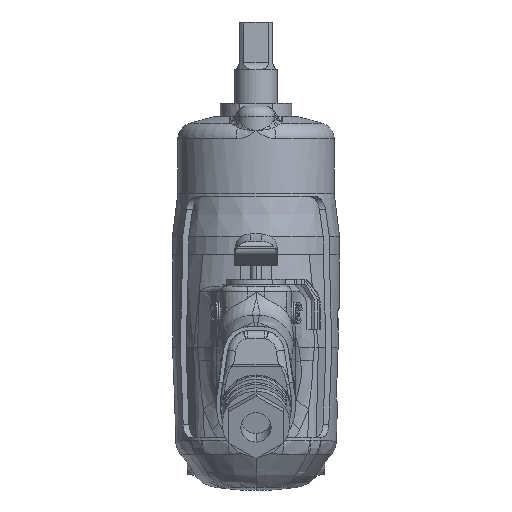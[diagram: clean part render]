
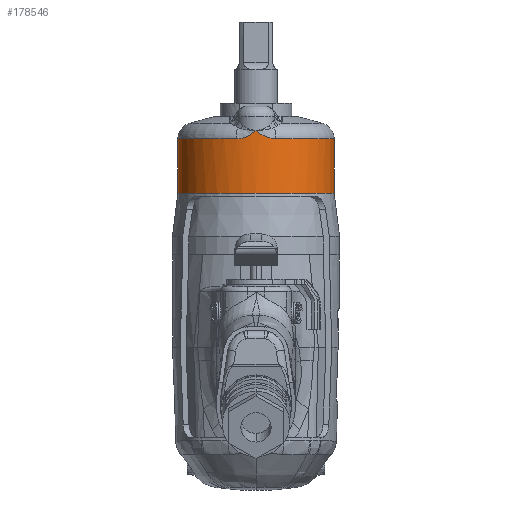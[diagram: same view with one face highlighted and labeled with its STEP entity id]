
A CAD part, front view. The second image highlights one B-rep face of the part: STEP entity #178546.
In plain terms, the highlighted cylindrical face has radius 29.5 mm (diameter 59 mm), a partial arc.
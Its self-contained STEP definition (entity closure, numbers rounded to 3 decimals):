
#77670 = CARTESIAN_POINT ( 'NONE',  ( 29.5, 0., -56.589 ) ) ;
#77679 = VECTOR ( 'NONE', #77735, 1000. ) ;
#77680 = CARTESIAN_POINT ( 'NONE',  ( 29.5, 0., -22.7 ) ) ;
#77681 = LINE ( 'NONE', #77680, #77679 ) ;
#77682 = CARTESIAN_POINT ( 'NONE',  ( 29.5, 0., -36.021 ) ) ;
#77735 = DIRECTION ( 'NONE',  ( 0., 0., 1. ) ) ;
#77741 = CARTESIAN_POINT ( 'NONE',  ( -29.5, 0., -56.589 ) ) ;
#77747 = CARTESIAN_POINT ( 'NONE',  ( -29.5, 0., -36.021 ) ) ;
#77748 = DIRECTION ( 'NONE',  ( 0., 0., 1. ) ) ;
#77749 = VECTOR ( 'NONE', #77748, 1000. ) ;
#77750 = CARTESIAN_POINT ( 'NONE',  ( -29.5, 0., -22.7 ) ) ;
#77755 = LINE ( 'NONE', #77750, #77749 ) ;
#77865 = DIRECTION ( 'NONE',  ( 1., 0., 0. ) ) ;
#77866 = DIRECTION ( 'NONE',  ( 0., 0., -1. ) ) ;
#77867 = CARTESIAN_POINT ( 'NONE',  ( 0., 0., -36.021 ) ) ;
#77868 = AXIS2_PLACEMENT_3D ( 'NONE', #77867, #77866, #77865 ) ;
#77869 = CIRCLE ( 'NONE', #77868, 29.5 ) ;
#77924 = CARTESIAN_POINT ( 'NONE',  ( -7.462, -28.541, -36.021 ) ) ;
#151428 = CARTESIAN_POINT ( 'NONE',  ( 0., -29.5, -32.951 ) ) ;
#151539 = CARTESIAN_POINT ( 'NONE',  ( 0., -29.5, -32.951 ) ) ;
#151540 = CARTESIAN_POINT ( 'NONE',  ( 0.527, -29.5, -33.403 ) ) ;
#151541 = CARTESIAN_POINT ( 'NONE',  ( 1.078, -29.486, -33.834 ) ) ;
#151542 = CARTESIAN_POINT ( 'NONE',  ( 1.95, -29.437, -34.405 ) ) ;
#151543 = CARTESIAN_POINT ( 'NONE',  ( 2.248, -29.416, -34.583 ) ) ;
#151544 = CARTESIAN_POINT ( 'NONE',  ( 2.857, -29.363, -34.911 ) ) ;
#151546 = CARTESIAN_POINT ( 'NONE',  ( 3.17, -29.331, -35.062 ) ) ;
#151547 = CARTESIAN_POINT ( 'NONE',  ( 4.123, -29.217, -35.465 ) ) ;
#151548 = CARTESIAN_POINT ( 'NONE',  ( 4.774, -29.119, -35.67 ) ) ;
#151549 = CARTESIAN_POINT ( 'NONE',  ( 5.776, -28.931, -35.879 ) ) ;
#151550 = CARTESIAN_POINT ( 'NONE',  ( 6.114, -28.862, -35.932 ) ) ;
#151551 = CARTESIAN_POINT ( 'NONE',  ( 6.788, -28.71, -36.003 ) ) ;
#151552 = CARTESIAN_POINT ( 'NONE',  ( 7.125, -28.629, -36.021 ) ) ;
#151553 = CARTESIAN_POINT ( 'NONE',  ( 7.462, -28.541, -36.021 ) ) ;
#151560 = B_SPLINE_CURVE_WITH_KNOTS ( 'NONE', 3,
 ( #151553, #151552, #151551, #151550, #151549, #151548, #151547, #151546, #151544, #151543, #151542, #151541, #151540, #151539 ),
 .UNSPECIFIED., .F., .F.,
 ( 4, 2, 2, 2, 2, 2, 4 ),
 ( 0., 0.001, 0.002, 0.004, 0.005, 0.006, 0.008 ),
 .UNSPECIFIED. ) ;
#151572 = CYLINDRICAL_SURFACE ( 'NONE', #151573, 29.5 ) ;
#151573 = AXIS2_PLACEMENT_3D ( 'NONE', #151634, #151633, #151632 ) ;
#151574 = FACE_OUTER_BOUND ( 'NONE', #178547, .T. ) ;
#151575 = DIRECTION ( 'NONE',  ( 1., 0., 0. ) ) ;
#151576 = DIRECTION ( 'NONE',  ( 0., 0., -1. ) ) ;
#151577 = CARTESIAN_POINT ( 'NONE',  ( 0., 0., -36.021 ) ) ;
#151578 = AXIS2_PLACEMENT_3D ( 'NONE', #151577, #151576, #151575 ) ;
#151579 = CIRCLE ( 'NONE', #151578, 29.5 ) ;
#151585 = CARTESIAN_POINT ( 'NONE',  ( 7.462, -28.541, -36.021 ) ) ;
#151588 = CARTESIAN_POINT ( 'NONE',  ( -7.462, -28.541, -36.021 ) ) ;
#151589 = CARTESIAN_POINT ( 'NONE',  ( -7.125, -28.629, -36.021 ) ) ;
#151590 = CARTESIAN_POINT ( 'NONE',  ( -6.786, -28.711, -36.003 ) ) ;
#151591 = CARTESIAN_POINT ( 'NONE',  ( -6.112, -28.862, -35.932 ) ) ;
#151592 = CARTESIAN_POINT ( 'NONE',  ( -5.777, -28.931, -35.879 ) ) ;
#151593 = CARTESIAN_POINT ( 'NONE',  ( -4.779, -29.118, -35.671 ) ) ;
#151594 = CARTESIAN_POINT ( 'NONE',  ( -4.117, -29.218, -35.463 ) ) ;
#151595 = CARTESIAN_POINT ( 'NONE',  ( -2.851, -29.369, -34.926 ) ) ;
#151596 = CARTESIAN_POINT ( 'NONE',  ( -2.241, -29.421, -34.596 ) ) ;
#151597 = CARTESIAN_POINT ( 'NONE',  ( -1.078, -29.486, -33.834 ) ) ;
#151598 = CARTESIAN_POINT ( 'NONE',  ( -0.528, -29.5, -33.405 ) ) ;
#151599 = CARTESIAN_POINT ( 'NONE',  ( 0., -29.5, -32.951 ) ) ;
#151602 = B_SPLINE_CURVE_WITH_KNOTS ( 'NONE', 3,
 ( #151599, #151598, #151597, #151596, #151595, #151594, #151593, #151592, #151591, #151590, #151589, #151588 ),
 .UNSPECIFIED., .F., .F.,
 ( 4, 2, 2, 2, 2, 4 ),
 ( 0., 0.002, 0.004, 0.006, 0.007, 0.008 ),
 .UNSPECIFIED. ) ;
#151627 = DIRECTION ( 'NONE',  ( -1., 0., 0. ) ) ;
#151628 = DIRECTION ( 'NONE',  ( 0., 0., 1. ) ) ;
#151629 = CARTESIAN_POINT ( 'NONE',  ( 0., 0., -56.589 ) ) ;
#151630 = AXIS2_PLACEMENT_3D ( 'NONE', #151629, #151628, #151627 ) ;
#151631 = CIRCLE ( 'NONE', #151630, 29.5 ) ;
#151632 = DIRECTION ( 'NONE',  ( 1., 0., 0. ) ) ;
#151633 = DIRECTION ( 'NONE',  ( 0., 0., 1. ) ) ;
#151634 = CARTESIAN_POINT ( 'NONE',  ( 0., 0., -22.7 ) ) ;
#174065 = VERTEX_POINT ( 'NONE', #77670 ) ;
#174121 = VERTEX_POINT ( 'NONE', #77682 ) ;
#174125 = EDGE_CURVE ( 'NONE', #174065, #174121, #77681, .T. ) ;
#174175 = EDGE_CURVE ( 'NONE', #174184, #174178, #77755, .T. ) ;
#174178 = VERTEX_POINT ( 'NONE', #77747 ) ;
#174184 = VERTEX_POINT ( 'NONE', #77741 ) ;
#174285 = EDGE_CURVE ( 'NONE', #174287, #174178, #77869, .T. ) ;
#174287 = VERTEX_POINT ( 'NONE', #77924 ) ;
#178496 = VERTEX_POINT ( 'NONE', #151428 ) ;
#178524 = ORIENTED_EDGE ( 'NONE', *, *, #178526, .T. ) ;
#178526 = EDGE_CURVE ( 'NONE', #178543, #178496, #151560, .T. ) ;
#178527 = ORIENTED_EDGE ( 'NONE', *, *, #178528, .T. ) ;
#178528 = EDGE_CURVE ( 'NONE', #178496, #174287, #151602, .T. ) ;
#178529 = ORIENTED_EDGE ( 'NONE', *, *, #174285, .T. ) ;
#178543 = VERTEX_POINT ( 'NONE', #151585 ) ;
#178545 = EDGE_CURVE ( 'NONE', #174121, #178543, #151579, .T. ) ;
#178546 = ADVANCED_FACE ( 'NONE', ( #151574 ), #151572, .T. ) ;
#178547 = EDGE_LOOP ( 'NONE', ( #178548, #178549, #178551, #178552, #178524, #178527, #178529 ) ) ;
#178548 = ORIENTED_EDGE ( 'NONE', *, *, #174175, .F. ) ;
#178549 = ORIENTED_EDGE ( 'NONE', *, *, #178550, .T. ) ;
#178550 = EDGE_CURVE ( 'NONE', #174184, #174065, #151631, .T. ) ;
#178551 = ORIENTED_EDGE ( 'NONE', *, *, #174125, .T. ) ;
#178552 = ORIENTED_EDGE ( 'NONE', *, *, #178545, .T. ) ;
